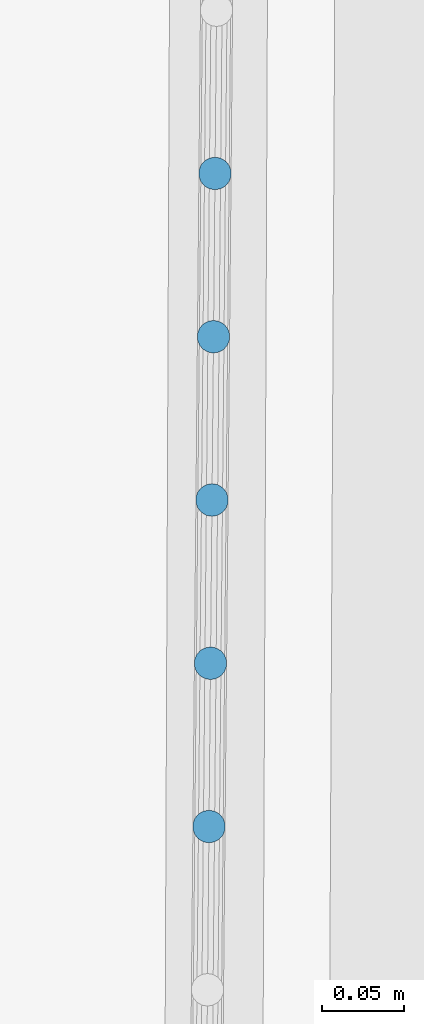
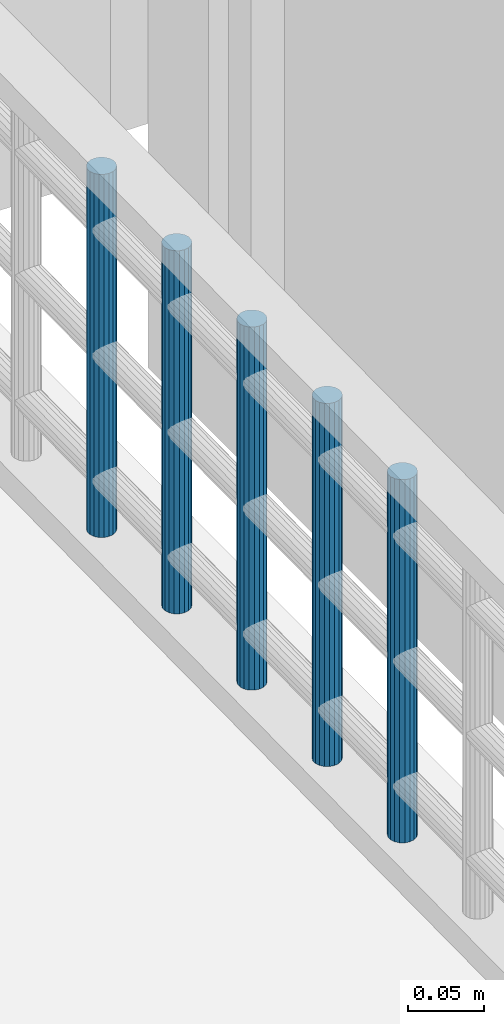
# One storey, part 27 of 66: 5 members, 1 element without a shape of its own.
"""IFC2X3 building model written with IfcOpenShell, lengths in centimetres."""

from ifc_helpers import new_model, entity, si_unit, converted_unit, direction, frame, origin, origin_with_axes, place, context, subcontext, project, spatial, faceted_brep, material, type_object, element, aggregate, save


model = new_model("IFC2X3")

# Units and contexts
model_context = context("Model", 3, precision=0.0001, world=origin(), true_north=direction((0.225632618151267, 0.974212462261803, 0.0)))
body_context = subcontext(model_context, "Body", "Model", "MODEL_VIEW")
ifc_project = project(units=[si_unit("LENGTHUNIT", "METRE", prefix="CENTI"), si_unit("AREAUNIT", "SQUARE_METRE", prefix="CENTI"), si_unit("VOLUMEUNIT", "CUBIC_METRE", prefix="CENTI"), converted_unit("PLANEANGLEUNIT", "DEGREE", entity("IfcRatioMeasure", 0.0174532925), si_unit("PLANEANGLEUNIT", "RADIAN"), dimensions=[0, 0, 0, 0, 0, 0, 0])], contexts=[model_context])

# Site, building, storey
site_placement = place(None, origin_with_axes())
site = spatial("IfcSite", under=ifc_project, at=site_placement, Name="Default Site", CompositionType="ELEMENT")
building_placement = place(site_placement, origin_with_axes())
building = spatial("IfcBuilding", under=site, at=building_placement, Name="Default Building", CompositionType="ELEMENT")
storey_placement = place(building_placement, frame((0.0, 0.0, 477.795358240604), z_axis=(0.0, 0.0, 1.0), x_axis=(1.0, 0.0, 0.0)))
storey = spatial("IfcBuildingStorey", under=building, at=storey_placement, Name="Niveau 1", CompositionType="ELEMENT", Elevation=477.795358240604)

# Assembly, members
building_element_proxy_type = type_object("IfcBuildingElementProxyType", Name="Type Object", PredefinedType="NOTDEFINED")
assembly_placement = place(storey_placement, frame((1064.33713672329, -30.426748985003, 9.99999999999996), z_axis=(0.0, 0.0, 1.0), x_axis=(-0.00922380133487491, -0.999957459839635, 0.0)))
assembly = element("IfcElementAssembly", 1, at=assembly_placement, inside=storey, type_object=building_element_proxy_type, Name="Panneau 1702026", ObjectType="Precast panel", PredefinedType="USERDEFINED")
ifc_material = material(Name="Aluminium satiné")
member_1_placement = place(assembly_placement, frame((38.4396940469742, 0.342020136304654, 31.0000002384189), z_axis=(0.0, 0.0, 1.0), x_axis=(0.500002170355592, -0.866024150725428, 0.0)))
member_1 = element("IfcMember", 2, at=member_1_placement, material=ifc_material, Name="4294967072", context=body_context, shape_type="Brep", body=[
    faceted_brep([(5.77315972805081e-13, -4.21884749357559e-13, -2.60902410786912e-13), (-0.347296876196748, -4.27435864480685e-13, -2.60902410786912e-13), (-0.673649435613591, -0.118782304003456, -2.60902410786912e-13), (-0.939693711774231, -0.34201812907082, -2.60902410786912e-13), (-1.1133436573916, -0.642786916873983, -2.60902410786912e-13), (-1.17365112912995, -0.984805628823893, -2.60902410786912e-13), (-1.11334505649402, -1.32682669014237, -2.60902410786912e-13), (-0.939698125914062, -1.62759547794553, -2.60902410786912e-13), (-0.673653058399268, -1.85083187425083, -2.60902410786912e-13), (-0.347302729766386, -1.96961709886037, -2.60902410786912e-13), (-5.85356906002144e-06, -1.96961709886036, -2.60902410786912e-13), (0.326346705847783, -1.85083479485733, -2.60902410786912e-13), (0.592390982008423, -1.62759896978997, -2.60902410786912e-13), (0.766040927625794, -1.3268301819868, -2.60902410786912e-13), (0.826348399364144, -0.984811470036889, -2.60902410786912e-13), (0.766042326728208, -0.642790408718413, -2.60902410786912e-13), (0.592395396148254, -0.342021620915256, -2.60902410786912e-13), (0.32635032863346, -0.118785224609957, -2.60902410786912e-13), (0.32635032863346, -0.118785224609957, -29.0000002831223), (0.592395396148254, -0.342021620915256, -29.0000002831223), (0.766042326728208, -0.642790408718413, -29.0000002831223), (0.826348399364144, -0.984811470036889, -29.0000002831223), (0.766040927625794, -1.3268301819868, -29.0000002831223), (0.592390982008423, -1.62759896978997, -29.0000002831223), (0.326346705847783, -1.85083479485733, -29.0000002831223), (-5.85356906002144e-06, -1.96961709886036, -29.0000002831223), (-0.347302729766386, -1.96961709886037, -29.0000002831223), (-0.673653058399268, -1.85083187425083, -29.0000002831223), (-0.939698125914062, -1.62759547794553, -29.0000002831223), (-1.11334505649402, -1.32682669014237, -29.0000002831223), (-1.17365112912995, -0.984805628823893, -29.0000002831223), (-1.1133436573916, -0.642786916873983, -29.0000002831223), (-0.939693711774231, -0.34201812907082, -29.0000002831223), (-0.673649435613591, -0.118782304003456, -29.0000002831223), (-0.347296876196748, -4.27435864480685e-13, -29.0000002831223), (5.77315972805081e-13, -4.21884749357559e-13, -29.0000002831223), (0.592393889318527, -0.342023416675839, -2.60902410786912e-13), (0.592393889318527, -0.342023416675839, -29.0000002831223), (0.766043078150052, -0.642789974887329, -2.60902410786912e-13), (0.766043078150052, -0.642789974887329, -29.0000002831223), (0.82634897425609, -0.9848113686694, -2.60902410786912e-13), (0.82634897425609, -0.9848113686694, -29.0000002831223), (0.766040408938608, -1.32683009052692, -2.60902410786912e-13), (0.766040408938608, -1.32683009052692, -29.0000002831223), (0.592390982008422, -1.62759896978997, -2.60902410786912e-13), (0.592390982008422, -1.62759896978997, -29.0000002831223), (0.326347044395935, -1.85083519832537, -2.60902410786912e-13), (0.326347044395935, -1.85083519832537, -29.0000002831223), (-6.05322546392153e-06, -1.96961655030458, -2.60902410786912e-13), (-6.05322546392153e-06, -1.96961655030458, -29.0000002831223), (-0.347302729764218, -1.96961623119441, -2.60902410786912e-13), (-0.347302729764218, -1.96961623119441, -29.0000002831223), (-0.673653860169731, -1.85083407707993, -2.60902410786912e-13), (-0.673653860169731, -1.85083407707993, -29.0000002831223), (-0.939696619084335, -1.62759368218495, -2.60902410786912e-13), (-0.939696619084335, -1.62759368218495, -29.0000002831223), (-1.11334580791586, -1.32682712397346, -2.60902410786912e-13), (-1.11334580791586, -1.32682712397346, -29.0000002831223), (-1.1736517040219, -0.984805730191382, -2.60902410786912e-13), (-1.1736517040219, -0.984805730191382, -29.0000002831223), (-1.11334313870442, -0.642787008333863, -2.60902410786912e-13), (-1.11334313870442, -0.642787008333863, -29.0000002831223), (-0.93969371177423, -0.342018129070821, -2.60902410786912e-13), (-0.93969371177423, -0.342018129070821, -29.0000002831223), (-0.67364977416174, -0.11878190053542, -2.60902410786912e-13), (-0.67364977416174, -0.11878190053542, -29.0000002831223), (-0.347296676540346, -5.4855620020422e-07, -2.60902410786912e-13), (-0.347296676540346, -5.4855620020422e-07, -29.0000002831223), (-1.59040924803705e-12, -8.67666372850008e-07, -2.60902410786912e-13), (-1.59040924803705e-12, -8.67666372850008e-07, -29.0000002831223), (0.326351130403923, -0.118783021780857, -2.60902410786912e-13), (0.326351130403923, -0.118783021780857, -29.0000002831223)], [[[0, 1, 2, 3, 4, 5, 6, 7, 8, 9, 10, 11, 12, 13, 14, 15, 16, 17]], [[18, 19, 20, 21, 22, 23, 24, 25, 26, 27, 28, 29, 30, 31, 32, 33, 34, 35]], [[17, 36, 37, 18]], [[16, 38, 39, 19]], [[15, 40, 41, 20]], [[14, 42, 43, 21]], [[13, 44, 45, 22]], [[12, 46, 47, 23]], [[11, 48, 49, 24]], [[10, 50, 51, 25]], [[9, 52, 53, 26]], [[8, 54, 55, 27]], [[7, 56, 57, 28]], [[6, 58, 59, 29]], [[5, 60, 61, 30]], [[4, 62, 63, 31]], [[3, 64, 65, 32]], [[2, 66, 67, 33]], [[1, 68, 69, 34]], [[0, 70, 71, 35]]]),
])
member_2_placement = place(assembly_placement, frame((48.4396934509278, 0.342020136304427, 31.0000002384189), z_axis=(0.0, 0.0, 1.0), x_axis=(0.500002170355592, -0.866024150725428, 0.0)))
member_2 = element("IfcMember", 3, at=member_2_placement, material=ifc_material, Name="4294967071", context=body_context, shape_type="Brep", body=[
    faceted_brep([(3.3584246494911e-13, -2.88657986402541e-13, -2.60902410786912e-13), (-0.34729687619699, -2.99760216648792e-13, -2.60902410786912e-13), (-0.67364943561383, -0.118782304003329, -2.60902410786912e-13), (-0.93969371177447, -0.342018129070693, -2.60902410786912e-13), (-1.11334216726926, -0.64278433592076, -2.60902410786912e-13), (-1.17365112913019, -0.984805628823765, -2.60902410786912e-13), (-1.11334505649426, -1.32682669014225, -2.60902410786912e-13), (-0.939696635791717, -1.62759289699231, -2.60902410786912e-13), (-0.673653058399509, -1.8508318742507, -2.60902410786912e-13), (-0.347301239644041, -1.96961451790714, -2.60902410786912e-13), (-5.85356930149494e-06, -1.96961709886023, -2.60902410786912e-13), (0.326346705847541, -1.8508347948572, -2.60902410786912e-13), (0.592392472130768, -1.62759638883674, -2.60902410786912e-13), (0.766040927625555, -1.32683018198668, -2.60902410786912e-13), (0.826348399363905, -0.984811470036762, -2.60902410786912e-13), (0.766042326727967, -0.642790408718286, -2.60902410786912e-13), (0.592395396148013, -0.342021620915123, -2.60902410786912e-13), (0.326351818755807, -0.118782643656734, -2.60902410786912e-13), (0.326351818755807, -0.118782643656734, -29.0000002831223), (0.592395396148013, -0.342021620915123, -29.0000002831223), (0.766042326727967, -0.642790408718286, -29.0000002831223), (0.826348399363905, -0.984811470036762, -29.0000002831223), (0.766040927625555, -1.32683018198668, -29.0000002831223), (0.592392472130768, -1.62759638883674, -29.0000002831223), (0.326346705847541, -1.8508347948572, -29.0000002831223), (-5.85356930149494e-06, -1.96961709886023, -29.0000002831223), (-0.347301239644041, -1.96961451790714, -29.0000002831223), (-0.673653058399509, -1.8508318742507, -29.0000002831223), (-0.939696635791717, -1.62759289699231, -29.0000002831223), (-1.11334505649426, -1.32682669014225, -29.0000002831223), (-1.17365112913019, -0.984805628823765, -29.0000002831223), (-1.11334216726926, -0.64278433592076, -29.0000002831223), (-0.93969371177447, -0.342018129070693, -29.0000002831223), (-0.67364943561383, -0.118782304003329, -29.0000002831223), (-0.34729687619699, -2.99760216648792e-13, -29.0000002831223), (3.3584246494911e-13, -2.88657986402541e-13, -29.0000002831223), (0.592395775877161, -0.342021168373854, -2.60902410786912e-13), (0.592395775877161, -0.342021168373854, -29.0000002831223), (0.766043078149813, -0.642789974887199, -2.60902410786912e-13), (0.766043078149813, -0.642789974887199, -29.0000002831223), (0.826348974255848, -0.984811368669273, -2.60902410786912e-13), (0.826348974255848, -0.984811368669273, -29.0000002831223), (0.766040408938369, -1.3268300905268, -2.60902410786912e-13), (0.766040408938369, -1.3268300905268, -29.0000002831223), (0.592392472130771, -1.62759638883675, -2.60902410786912e-13), (0.592392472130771, -1.62759638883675, -29.0000002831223), (0.326346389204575, -1.85083441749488, -2.60902410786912e-13), (0.326346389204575, -1.85083441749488, -29.0000002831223), (-6.05322570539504e-06, -1.96961655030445, -2.60902410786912e-13), (-6.05322570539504e-06, -1.96961655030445, -29.0000002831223), (-0.347301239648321, -1.96961623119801, -2.60902410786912e-13), (-0.347301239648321, -1.96961623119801, -29.0000002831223), (-0.673652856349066, -1.85083131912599, -2.60902410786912e-13), (-0.673652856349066, -1.85083131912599, -29.0000002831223), (-0.939697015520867, -1.62759334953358, -2.60902410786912e-13), (-0.939697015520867, -1.62759334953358, -29.0000002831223), (-1.11334357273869, -1.32682583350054, -2.60902410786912e-13), (-1.11334357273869, -1.32682583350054, -29.0000002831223), (-1.17365170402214, -0.984805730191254, -2.60902410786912e-13), (-1.17365170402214, -0.984805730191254, -29.0000002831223), (-1.11334265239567, -0.642784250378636, -2.60902410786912e-13), (-1.11334265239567, -0.642784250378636, -29.0000002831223), (-0.939693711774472, -0.342018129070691, -2.60902410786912e-13), (-0.939693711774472, -0.342018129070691, -29.0000002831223), (-0.673649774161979, -0.118781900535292, -2.60902410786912e-13), (-0.673649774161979, -0.118781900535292, -29.0000002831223), (-0.347296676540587, -5.4855607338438e-07, -2.60902410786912e-13), (-0.347296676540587, -5.4855607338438e-07, -29.0000002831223), (-1.8318827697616e-12, -8.6766624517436e-07, -2.60902410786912e-13), (-1.8318827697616e-12, -8.6766624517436e-07, -29.0000002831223), (0.326351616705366, -0.11878319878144, -2.60902410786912e-13), (0.326351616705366, -0.11878319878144, -29.0000002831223)], [[[0, 1, 2, 3, 4, 5, 6, 7, 8, 9, 10, 11, 12, 13, 14, 15, 16, 17]], [[18, 19, 20, 21, 22, 23, 24, 25, 26, 27, 28, 29, 30, 31, 32, 33, 34, 35]], [[17, 36, 37, 18]], [[16, 38, 39, 19]], [[15, 40, 41, 20]], [[14, 42, 43, 21]], [[13, 44, 45, 22]], [[12, 46, 47, 23]], [[11, 48, 49, 24]], [[10, 50, 51, 25]], [[9, 52, 53, 26]], [[8, 54, 55, 27]], [[7, 56, 57, 28]], [[6, 58, 59, 29]], [[5, 60, 61, 30]], [[4, 62, 63, 31]], [[3, 64, 65, 32]], [[2, 66, 67, 33]], [[1, 68, 69, 34]], [[0, 70, 71, 35]]]),
])
member_3_placement = place(assembly_placement, frame((58.4396898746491, 0.342020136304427, 31.0000002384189), z_axis=(0.0, 0.0, 1.0), x_axis=(0.499995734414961, -0.866027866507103, 0.0)))
member_3 = element("IfcMember", 4, at=member_3_placement, material=ifc_material, Name="4294967070", context=body_context, shape_type="Brep", body=[
    faceted_brep([(4.94049245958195e-13, -2.77555756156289e-13, -2.38697950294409e-13), (-0.347295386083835, -2.55351295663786e-13, -2.38697950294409e-13), (-0.673647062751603, -0.118784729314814, -2.38697950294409e-13), (-0.939688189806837, -0.342019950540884, -2.38697950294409e-13), (-1.11333590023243, -0.64279002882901, -2.38697950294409e-13), (-1.17364232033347, -0.984811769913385, -2.38697950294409e-13), (-1.11333370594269, -1.32683238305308, -2.38697950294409e-13), (-0.939683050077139, -1.6275972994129, -2.38697950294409e-13), (-0.673637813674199, -1.85083429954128, -2.38697950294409e-13), (-0.347285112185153, -1.96961451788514, -2.38697950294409e-13), (1.027389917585e-05, -1.96961451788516, -2.38697950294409e-13), (0.326361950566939, -1.85082978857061, -2.38697950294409e-13), (0.592406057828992, -1.62758940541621, -2.38697950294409e-13), (0.766053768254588, -1.32681932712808, -2.38697950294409e-13), (0.826357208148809, -0.984802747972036, -2.38697950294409e-13), (0.766048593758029, -0.642782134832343, -2.38697950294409e-13), (0.59239793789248, -0.342017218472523, -2.38697950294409e-13), (0.326352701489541, -0.118780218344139, -2.38697950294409e-13), (0.326352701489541, -0.118780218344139, -29.0000002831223), (0.59239793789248, -0.342017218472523, -29.0000002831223), (0.766048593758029, -0.642782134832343, -29.0000002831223), (0.826357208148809, -0.984802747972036, -29.0000002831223), (0.766053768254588, -1.32681932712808, -29.0000002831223), (0.592406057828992, -1.62758940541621, -29.0000002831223), (0.326361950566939, -1.85082978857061, -29.0000002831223), (1.027389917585e-05, -1.96961451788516, -29.0000002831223), (-0.347285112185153, -1.96961451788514, -29.0000002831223), (-0.673637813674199, -1.85083429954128, -29.0000002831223), (-0.939683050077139, -1.6275972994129, -29.0000002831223), (-1.11333370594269, -1.32683238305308, -29.0000002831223), (-1.17364232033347, -0.984811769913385, -29.0000002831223), (-1.11333590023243, -0.64279002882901, -29.0000002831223), (-0.939688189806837, -0.342019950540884, -29.0000002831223), (-0.673647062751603, -0.118784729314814, -29.0000002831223), (-0.347295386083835, -2.55351295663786e-13, -29.0000002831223), (4.94049245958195e-13, -2.77555756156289e-13, -29.0000002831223), (0.592398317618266, -0.342016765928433, -2.38697950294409e-13), (0.592398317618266, -0.342016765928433, -29.0000002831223), (0.766047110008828, -0.642782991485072, -2.38697950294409e-13), (0.766047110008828, -0.642782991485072, -29.0000002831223), (0.826357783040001, -0.984802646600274, -2.38697950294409e-13), (0.826357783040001, -0.984802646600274, -29.0000002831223), (0.766052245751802, -1.32681905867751, -2.38697950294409e-13), (0.766052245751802, -1.32681905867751, -29.0000002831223), (0.592406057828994, -1.62758940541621, -2.38697950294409e-13), (0.592406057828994, -1.62758940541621, -29.0000002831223), (0.326361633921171, -1.85082941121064, -2.38697950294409e-13), (0.326361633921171, -1.85082941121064, -29.0000002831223), (1.00742386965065e-05, -1.96961396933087, -2.38697950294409e-13), (1.00742386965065e-05, -1.96961396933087, -29.0000002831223), (-0.347285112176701, -1.96961623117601, -2.38697950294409e-13), (-0.347285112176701, -1.96961623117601, -29.0000002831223), (-0.673637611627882, -1.85083374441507, -2.38697950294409e-13), (-0.673637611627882, -1.85083374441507, -29.0000002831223), (-0.939683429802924, -1.62759775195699, -2.38697950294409e-13), (-0.939683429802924, -1.62759775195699, -29.0000002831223), (-1.11333222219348, -1.32683152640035, -2.38697950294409e-13), (-1.11333222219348, -1.32683152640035, -29.0000002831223), (-1.17364289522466, -0.984811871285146, -2.38697950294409e-13), (-1.17364289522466, -0.984811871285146, -29.0000002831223), (-1.11333638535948, -0.642789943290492, -2.38697950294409e-13), (-1.11333638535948, -0.642789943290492, -29.0000002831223), (-0.939688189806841, -0.342019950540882, -2.38697950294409e-13), (-0.939688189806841, -0.342019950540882, -29.0000002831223), (-0.673648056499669, -0.118783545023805, -2.38697950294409e-13), (-0.673648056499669, -0.118783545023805, -29.0000002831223), (-0.347295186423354, -5.48554549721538e-07, -2.38697950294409e-13), (-0.347295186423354, -5.48554549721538e-07, -29.0000002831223), (-7.95802263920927e-12, 1.71329059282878e-06, -2.38697950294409e-13), (-7.95802263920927e-12, 1.71329059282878e-06, -29.0000002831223), (0.326352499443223, -0.118780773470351, -2.38697950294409e-13), (0.326352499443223, -0.118780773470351, -29.0000002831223)], [[[0, 1, 2, 3, 4, 5, 6, 7, 8, 9, 10, 11, 12, 13, 14, 15, 16, 17]], [[18, 19, 20, 21, 22, 23, 24, 25, 26, 27, 28, 29, 30, 31, 32, 33, 34, 35]], [[17, 36, 37, 18]], [[16, 38, 39, 19]], [[15, 40, 41, 20]], [[14, 42, 43, 21]], [[13, 44, 45, 22]], [[12, 46, 47, 23]], [[11, 48, 49, 24]], [[10, 50, 51, 25]], [[9, 52, 53, 26]], [[8, 54, 55, 27]], [[7, 56, 57, 28]], [[6, 58, 59, 29]], [[5, 60, 61, 30]], [[4, 62, 63, 31]], [[3, 64, 65, 32]], [[2, 66, 67, 33]], [[1, 68, 69, 34]], [[0, 70, 71, 35]]]),
])
member_4_placement = place(assembly_placement, frame((68.4396922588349, 0.342020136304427, 31.0000002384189), z_axis=(0.0, 0.0, 1.0), x_axis=(0.499995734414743, -0.866027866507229, 0.0)))
member_4 = element("IfcMember", 5, at=member_4_placement, material=ifc_material, Name="4294967069", context=body_context, shape_type="Brep", body=[
    faceted_brep([(2.22044604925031e-13, -3.10862446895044e-13, -2.60902410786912e-13), (-0.347295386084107, -3.77475828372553e-13, -2.60902410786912e-13), (-0.673647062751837, -0.118784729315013, -2.60902410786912e-13), (-0.939691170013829, -0.34202511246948, -2.60902410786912e-13), (-1.11333888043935, -0.642795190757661, -2.60902410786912e-13), (-1.17364232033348, -0.984811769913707, -2.60902410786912e-13), (-1.11333370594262, -1.32683238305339, -2.60902410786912e-13), (-0.939683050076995, -1.62759729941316, -2.60902410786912e-13), (-0.673637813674, -1.85083429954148, -2.60902410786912e-13), (-0.34728511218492, -1.96961451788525, -2.60902410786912e-13), (1.02738994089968e-05, -1.96961451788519, -2.60902410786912e-13), (0.326361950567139, -1.85082978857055, -2.60902410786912e-13), (0.592403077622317, -1.62759456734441, -2.60902410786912e-13), (0.76605078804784, -1.32682448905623, -2.60902410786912e-13), (0.826357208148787, -0.984802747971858, -2.60902410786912e-13), (0.766048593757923, -0.642782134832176, -2.60902410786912e-13), (0.592397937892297, -0.342017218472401, -2.60902410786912e-13), (0.326352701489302, -0.118780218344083, -2.60902410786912e-13), (0.326352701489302, -0.118780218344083, -29.0000002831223), (0.592397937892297, -0.342017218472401, -29.0000002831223), (0.766048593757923, -0.642782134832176, -29.0000002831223), (0.826357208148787, -0.984802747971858, -29.0000002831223), (0.76605078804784, -1.32682448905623, -29.0000002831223), (0.592403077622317, -1.62759456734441, -29.0000002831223), (0.326361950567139, -1.85082978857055, -29.0000002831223), (1.02738994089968e-05, -1.96961451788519, -29.0000002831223), (-0.34728511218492, -1.96961451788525, -29.0000002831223), (-0.673637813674, -1.85083429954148, -29.0000002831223), (-0.939683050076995, -1.62759729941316, -29.0000002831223), (-1.11333370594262, -1.32683238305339, -29.0000002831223), (-1.17364232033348, -0.984811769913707, -29.0000002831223), (-1.11333888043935, -0.642795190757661, -29.0000002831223), (-0.939691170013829, -0.34202511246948, -29.0000002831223), (-0.673647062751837, -0.118784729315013, -29.0000002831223), (-0.347295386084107, -3.77475828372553e-13, -29.0000002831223), (2.22044604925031e-13, -3.10862446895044e-13, -29.0000002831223), (0.592398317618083, -0.34201676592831, -2.60902410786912e-13), (0.592398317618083, -0.34201676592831, -29.0000002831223), (0.76604711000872, -0.642782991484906, -2.60902410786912e-13), (0.76604711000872, -0.642782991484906, -29.0000002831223), (0.826357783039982, -0.984802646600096, -2.60902410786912e-13), (0.826357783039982, -0.984802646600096, -29.0000002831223), (0.766051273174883, -1.32682457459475, -2.60902410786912e-13), (0.766051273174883, -1.32682457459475, -29.0000002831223), (0.592403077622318, -1.62759456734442, -2.60902410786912e-13), (0.592403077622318, -1.62759456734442, -29.0000002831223), (0.326362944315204, -1.85083097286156, -2.60902410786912e-13), (0.326362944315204, -1.85083097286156, -29.0000002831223), (1.00742389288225e-05, -1.96961396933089, -2.60902410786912e-13), (1.00742389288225e-05, -1.96961396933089, -29.0000002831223), (-0.347285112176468, -1.96961623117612, -2.60902410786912e-13), (-0.347285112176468, -1.96961623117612, -29.0000002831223), (-0.673637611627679, -1.85083374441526, -2.60902410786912e-13), (-0.673637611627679, -1.85083374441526, -29.0000002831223), (-0.93968342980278, -1.62759775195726, -2.60902410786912e-13), (-0.93968342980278, -1.62759775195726, -29.0000002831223), (-1.11333222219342, -1.32683152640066, -2.60902410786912e-13), (-1.11333222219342, -1.32683152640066, -29.0000002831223), (-1.17364289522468, -0.984811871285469, -2.60902410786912e-13), (-1.17364289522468, -0.984811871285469, -29.0000002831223), (-1.11333735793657, -0.64279545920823, -2.60902410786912e-13), (-1.11333735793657, -0.64279545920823, -29.0000002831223), (-0.93969117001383, -0.342025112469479, -2.60902410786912e-13), (-0.93969117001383, -0.342025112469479, -29.0000002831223), (-0.673646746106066, -0.118785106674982, -2.60902410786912e-13), (-0.673646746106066, -0.118785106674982, -29.0000002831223), (-0.347295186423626, -5.48554670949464e-07, -2.60902410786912e-13), (-0.347295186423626, -5.48554670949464e-07, -29.0000002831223), (-8.23002770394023e-12, 1.71329055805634e-06, -2.60902410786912e-13), (-8.23002770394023e-12, 1.71329055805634e-06, -29.0000002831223), (0.326352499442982, -0.118780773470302, -2.60902410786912e-13), (0.326352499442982, -0.118780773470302, -29.0000002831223)], [[[0, 1, 2, 3, 4, 5, 6, 7, 8, 9, 10, 11, 12, 13, 14, 15, 16, 17]], [[18, 19, 20, 21, 22, 23, 24, 25, 26, 27, 28, 29, 30, 31, 32, 33, 34, 35]], [[17, 36, 37, 18]], [[16, 38, 39, 19]], [[15, 40, 41, 20]], [[14, 42, 43, 21]], [[13, 44, 45, 22]], [[12, 46, 47, 23]], [[11, 48, 49, 24]], [[10, 50, 51, 25]], [[9, 52, 53, 26]], [[8, 54, 55, 27]], [[7, 56, 57, 28]], [[6, 58, 59, 29]], [[5, 60, 61, 30]], [[4, 62, 63, 31]], [[3, 64, 65, 32]], [[2, 66, 67, 33]], [[1, 68, 69, 34]], [[0, 70, 71, 35]]]),
])
member_5_placement = place(assembly_placement, frame((78.4396946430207, 0.342020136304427, 31.0000002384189), z_axis=(0.0, 0.0, 1.0), x_axis=(0.500008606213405, -0.866020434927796, 0.0)))
member_5 = element("IfcMember", 6, at=member_5_placement, material=ifc_material, Name="4294967068", context=body_context, shape_type="Brep", body=[
    faceted_brep([(4.27435864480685e-13, -2.77555756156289e-13, -2.60902410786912e-13), (-0.347298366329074, -2.88657986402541e-13, -2.60902410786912e-13), (-0.6736518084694, -0.118779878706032, -2.60902410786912e-13), (-0.939696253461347, -0.342011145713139, -2.60902410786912e-13), (-1.11334843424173, -0.642778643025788, -2.60902410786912e-13), (-1.17365993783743, -0.984799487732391, -2.60902410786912e-13), (-1.11335640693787, -1.32682099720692, -2.60902410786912e-13), (-0.939710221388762, -1.62758849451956, -2.60902410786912e-13), (-0.673668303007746, -1.85082944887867, -2.60902410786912e-13), (-0.347317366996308, -1.96961451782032, -2.60902410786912e-13), (-2.19809503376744e-05, -1.96961967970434, -2.60902410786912e-13), (0.326331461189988, -1.85083980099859, -2.60902410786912e-13), (0.592378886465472, -1.62760337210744, -2.60902410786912e-13), (0.766031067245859, -1.3268358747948, -2.60902410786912e-13), (0.826339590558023, -0.984820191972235, -2.60902410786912e-13), (0.766036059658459, -0.642798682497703, -2.60902410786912e-13), (0.592392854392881, -0.342026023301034, -2.60902410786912e-13), (0.326350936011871, -0.118785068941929, -2.60902410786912e-13), (0.326350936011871, -0.118785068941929, -29.0000002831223), (0.592392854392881, -0.342026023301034, -29.0000002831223), (0.766036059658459, -0.642798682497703, -29.0000002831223), (0.826339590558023, -0.984820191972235, -29.0000002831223), (0.766031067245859, -1.3268358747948, -29.0000002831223), (0.592378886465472, -1.62760337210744, -29.0000002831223), (0.326331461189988, -1.85083980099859, -29.0000002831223), (-2.19809503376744e-05, -1.96961967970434, -29.0000002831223), (-0.347317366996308, -1.96961451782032, -29.0000002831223), (-0.673668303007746, -1.85082944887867, -29.0000002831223), (-0.939710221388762, -1.62758849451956, -29.0000002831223), (-1.11335640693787, -1.32682099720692, -29.0000002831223), (-1.17365993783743, -0.984799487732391, -29.0000002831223), (-1.11334843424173, -0.642778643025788, -29.0000002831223), (-0.939696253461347, -0.342011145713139, -29.0000002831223), (-0.6736518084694, -0.118779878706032, -29.0000002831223), (-0.347298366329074, -2.88657986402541e-13, -29.0000002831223), (4.27435864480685e-13, -2.77555756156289e-13, -29.0000002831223), (0.592393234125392, -0.342025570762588, -2.60902410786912e-13), (0.592393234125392, -0.342025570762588, -29.0000002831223), (0.76603904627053, -0.642796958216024, -2.60902410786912e-13), (0.76603904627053, -0.642796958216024, -29.0000002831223), (0.826340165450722, -0.984820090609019, -2.60902410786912e-13), (0.826340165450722, -0.984820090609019, -29.0000002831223), (0.766029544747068, -1.3268356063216, -2.60902410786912e-13), (0.766029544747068, -1.3268356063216, -29.0000002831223), (0.326331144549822, -1.85083942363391, -2.60902410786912e-13), (0.326331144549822, -1.85083942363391, -29.0000002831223), (-2.21806026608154e-05, -1.96961913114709, -2.60902410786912e-13), (-2.21806026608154e-05, -1.96961913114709, -29.0000002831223), (-0.347317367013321, -1.96961623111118, -2.60902410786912e-13), (-0.347317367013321, -1.96961623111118, -29.0000002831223), (-0.673668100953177, -1.85082889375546, -2.60902410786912e-13), (-0.673668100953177, -1.85082889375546, -29.0000002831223), (-0.93971060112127, -1.627588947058, -2.60902410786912e-13), (-0.93971060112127, -1.627588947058, -29.0000002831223), (-1.11335492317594, -1.32682014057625, -2.60902410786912e-13), (-1.11335492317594, -1.32682014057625, -29.0000002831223), (-1.17366051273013, -0.984799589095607, -2.60902410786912e-13), (-1.17366051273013, -0.984799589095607, -29.0000002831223), (-1.11334891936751, -0.642778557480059, -2.60902410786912e-13), (-1.11334891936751, -0.642778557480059, -29.0000002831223), (-0.673652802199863, -0.118778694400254, -2.60902410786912e-13), (-0.673652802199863, -0.118778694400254, -29.0000002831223), (-0.347298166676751, -5.48557539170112e-07, -2.60902410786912e-13), (-0.347298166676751, -5.48557539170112e-07, -29.0000002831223), (-3.3816891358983e-11, -3.44862303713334e-06, -2.60902410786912e-13), (-3.3816891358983e-11, -3.44862303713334e-06, -29.0000002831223), (0.326350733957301, -0.118785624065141, -2.60902410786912e-13), (0.326350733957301, -0.118785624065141, -29.0000002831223)], [[[0, 1, 2, 3, 4, 5, 6, 7, 8, 9, 10, 11, 12, 13, 14, 15, 16, 17]], [[18, 19, 20, 21, 22, 23, 24, 25, 26, 27, 28, 29, 30, 31, 32, 33, 34, 35]], [[17, 36, 37, 18]], [[16, 38, 39, 19]], [[15, 40, 41, 20]], [[14, 42, 43, 21]], [[13, 12, 23, 22]], [[12, 44, 45, 23]], [[11, 46, 47, 24]], [[10, 48, 49, 25]], [[9, 50, 51, 26]], [[8, 52, 53, 27]], [[7, 54, 55, 28]], [[6, 56, 57, 29]], [[5, 58, 59, 30]], [[4, 3, 32, 31]], [[3, 60, 61, 32]], [[2, 62, 63, 33]], [[1, 64, 65, 34]], [[0, 66, 67, 35]]]),
])
aggregate(assembly, [member_1, member_2, member_3, member_4, member_5])

save(model, "model.ifc")
